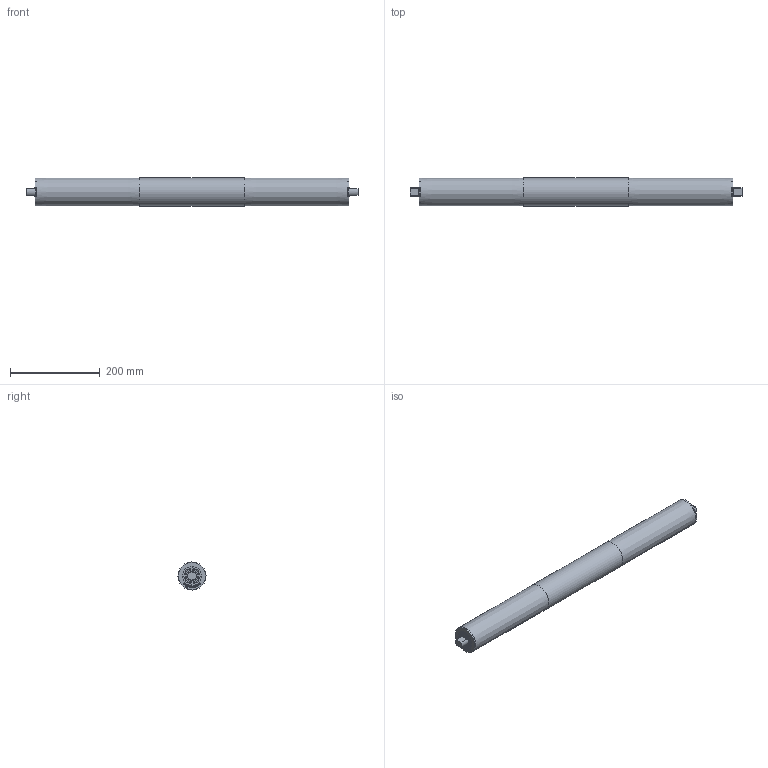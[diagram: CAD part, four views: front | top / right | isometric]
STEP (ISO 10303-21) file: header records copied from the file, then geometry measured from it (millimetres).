
FILE_DESCRIPTION(/* description */ (''),/* implementation_level */ '2;1');
FILE_NAME(/* name */ 'C:\WF_Ellegaard\Designs\00 standart komponenter\Tromlemotor\Scandrive S\Ø60\Scandrive S Ø60 RL700.stp',/* time_stamp */ '2017-04-19T18:01:37+02:00',/* author */ ('guh'),/* organization */ (''),/* preprocessor_version */ 'ST-DEVELOPER v15.6',/* originating_system */ 'Autodesk Inventor 2015',/* authorisation */ '');
FILE_SCHEMA (('AUTOMOTIVE_DESIGN { 1 0 10303 214 3 1 1 }'));
Length unit declared in the file: millimetre
Products named in the file (1): Scandrive S Ø60 RL700
Bounding box: 741 x 62.5 x 62.5 mm (x, y, z)
Volume: 457765.9 mm3; surface area: 271962 mm2
Topology: 1 solids, 2 shells, 454 faces, 1186 edges, 790 vertices
Faces by surface type: plane 236, bspline 196, cylinder 16, cone 4, torus 2
Full cylindrical faces by diameter (mm): 20 x2, 26 x2, 26.02 x2, 41.98 x2, 42 x2, 57 x1, 61.493 x2, 61.5 x2, 62.5 x1
Entity records: 14806 total; most frequent: CARTESIAN_POINT 4953, ORIENTED_EDGE 2324, DIRECTION 1336, EDGE_CURVE 1162, VERTEX_POINT 788, LINE 722, VECTOR 722, EDGE_LOOP 530
